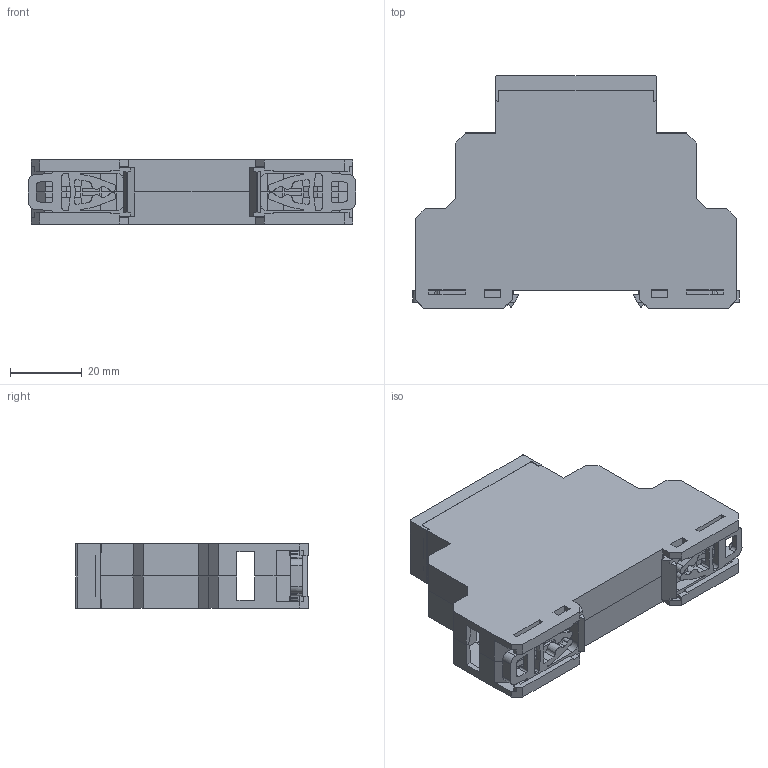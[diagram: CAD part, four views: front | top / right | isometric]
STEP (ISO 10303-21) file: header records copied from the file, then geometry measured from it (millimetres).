
FILE_DESCRIPTION(/* description */ (''),/* implementation_level */ '2;1');
FILE_NAME(/* name */ '\\server2\users\marek.teluk\Desktop\_PROJEKTY\02. ABS seria obudów na szynę DIN-3 (O, 35 mm)\1M\_DOKUMENTACJE\ZD1001-A.stp',/* time_stamp */ '2025-07-09T12:44:22+02:00',/* author */ ('marek.teluk'),/* organization */ (''),/* preprocessor_version */ 'ST-DEVELOPER v16.5',/* originating_system */ 'Autodesk Inventor 2017',/* authorisation */ '');
FILE_SCHEMA (('AUTOMOTIVE_DESIGN { 1 0 10303 214 3 1 1 }'));
Length unit declared in the file: millimetre
Products named in the file (4): ZD1001; Part1; Zatrzask 10M; Part1_1
Assembly tree (5 placements, depth 2):
  ZD1001
    Part1  x2
    Zatrzask 10M  x2
    Part1_1
Bounding box: 91.44 x 65 x 18.1 mm (x, y, z)
Volume: 16614.4 mm3; surface area: 32023.6 mm2
Topology: 5 solids, 5 shells, 842 faces, 2402 edges, 1572 vertices
Faces by surface type: plane 672, cylinder 82, cone 56, bspline 32
Full cylindrical faces by diameter (mm): 1.493 x8, 1.99 x4, 2.488 x4
Entity records: 14636 total; most frequent: CARTESIAN_POINT 3136, ORIENTED_EDGE 2456, DIRECTION 2237, EDGE_CURVE 1228, LINE 969, VECTOR 969, VERTEX_POINT 812, AXIS2_PLACEMENT_3D 634
